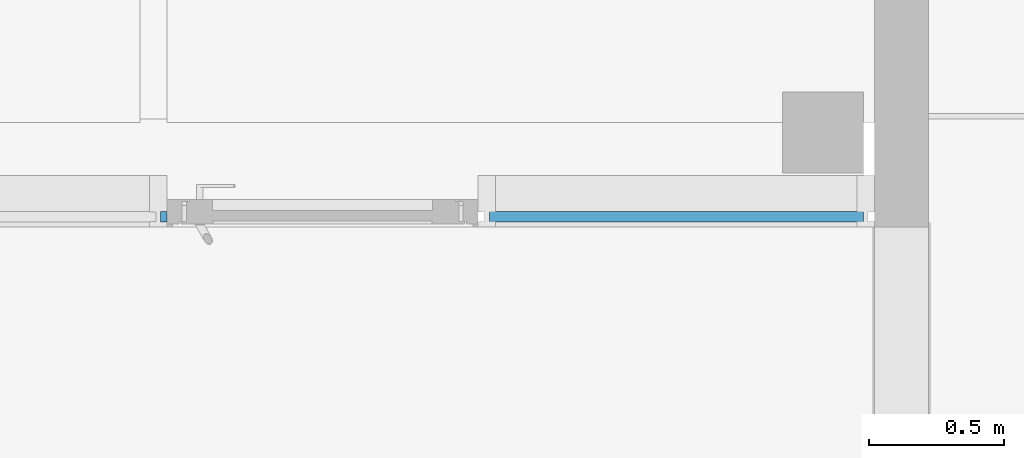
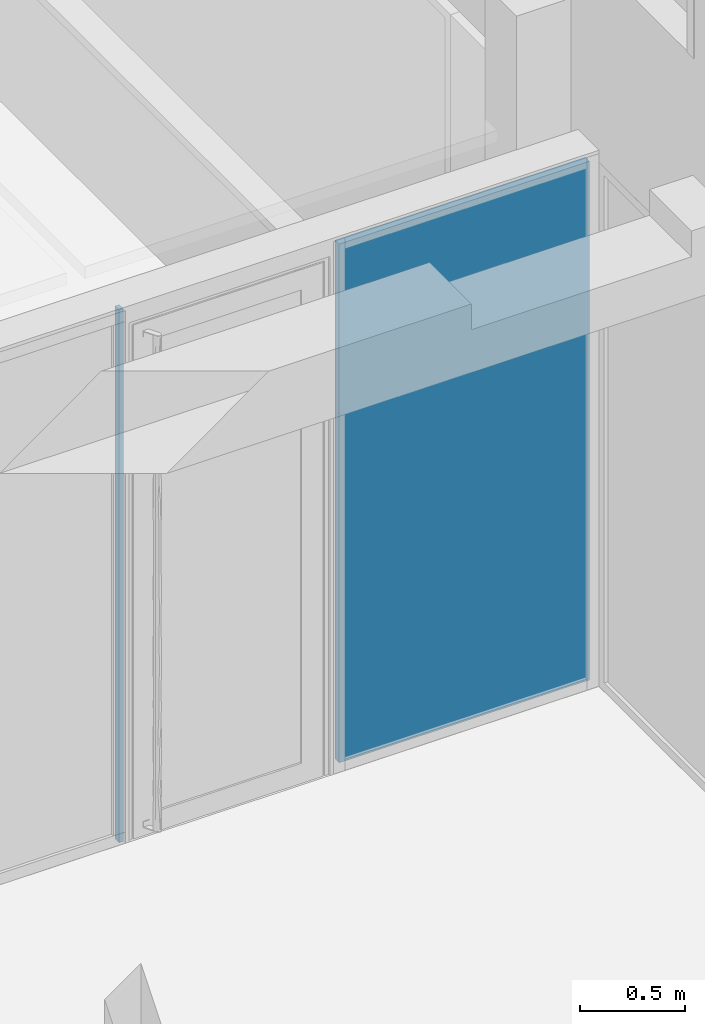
# One storey, part 66 of 240: 2 plates, 2 elements without a shape of their own.
"""IFC2X3 building model written with IfcOpenShell, lengths in centimetres."""

from ifc_helpers import new_model, entity, si_unit, converted_unit, derived_unit, direction, frame, frame_2d, origin, origin_2d_with_axis, place, context, subcontext, project, spatial, rectangle, extrude, source, transform, mapped, material, layer, layer_set, layer_usage, type_object, type_shapes, element, aggregate, save


model = new_model("IFC2X3")

# Units and contexts
model_context = context("Model", 3, precision=0.001, world=origin(), true_north=direction((6.12303176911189e-17, 1.0)))
body_context = subcontext(model_context, "Body", "Model", "MODEL_VIEW")
ifc_project = project(units=[si_unit("LENGTHUNIT", "METRE", prefix="CENTI"), si_unit("AREAUNIT", "SQUARE_METRE"), si_unit("VOLUMEUNIT", "CUBIC_METRE"), converted_unit("PLANEANGLEUNIT", "DEGREE", entity("IfcRatioMeasure", 0.0174532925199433), si_unit("PLANEANGLEUNIT", "RADIAN"), dimensions=[0, 0, 0, 0, 0, 0, 0]), si_unit("MASSUNIT", "GRAM", prefix="KILO"), derived_unit("MASSDENSITYUNIT", [(si_unit("MASSUNIT", "GRAM", prefix="KILO"), 1), (si_unit("LENGTHUNIT", "METRE"), -3)]), si_unit("TIMEUNIT", "SECOND"), si_unit("FREQUENCYUNIT", "HERTZ"), si_unit("THERMODYNAMICTEMPERATUREUNIT", "DEGREE_CELSIUS"), derived_unit("THERMALTRANSMITTANCEUNIT", [(si_unit("MASSUNIT", "GRAM", prefix="KILO"), 1), (si_unit("THERMODYNAMICTEMPERATUREUNIT", "KELVIN"), -1), (si_unit("TIMEUNIT", "SECOND"), -3)]), derived_unit("VOLUMETRICFLOWRATEUNIT", [(si_unit("LENGTHUNIT", "METRE"), 3), (si_unit("TIMEUNIT", "SECOND"), -1)]), si_unit("ELECTRICCURRENTUNIT", "AMPERE"), si_unit("ELECTRICVOLTAGEUNIT", "VOLT"), si_unit("POWERUNIT", "WATT"), si_unit("FORCEUNIT", "NEWTON", prefix="KILO"), si_unit("ILLUMINANCEUNIT", "LUX"), si_unit("LUMINOUSFLUXUNIT", "LUMEN"), si_unit("LUMINOUSINTENSITYUNIT", "CANDELA"), derived_unit("USERDEFINED", [(si_unit("MASSUNIT", "GRAM", prefix="KILO"), -1), (si_unit("LENGTHUNIT", "METRE"), -2), (si_unit("TIMEUNIT", "SECOND"), 3), (si_unit("LUMINOUSFLUXUNIT", "LUMEN"), 1)]), derived_unit("LINEARVELOCITYUNIT", [(si_unit("LENGTHUNIT", "METRE"), 1), (si_unit("TIMEUNIT", "SECOND"), -1)]), si_unit("PRESSUREUNIT", "PASCAL"), derived_unit("USERDEFINED", [(si_unit("LENGTHUNIT", "METRE"), -2), (si_unit("MASSUNIT", "GRAM", prefix="KILO"), 1), (si_unit("TIMEUNIT", "SECOND"), -2)])], contexts=[model_context])

# Site, building, storey
site_placement = place(None, frame((-2781.94577612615, 7442.24238424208, 0.0)))
site = spatial("IfcSite", under=ifc_project, at=site_placement, Name="Default", CompositionType="ELEMENT")
building_placement = place(site_placement, origin())
building = spatial("IfcBuilding", under=site, at=building_placement, CompositionType="ELEMENT")
storey_placement = place(building_placement, origin())
storey = spatial("IfcBuildingStorey", under=building, at=storey_placement, Name="N00 - COO", CompositionType="ELEMENT", Elevation=0.0)

# Curtain wall, plate
curtain_wall_type = type_object("IfcCurtainWallType", Name="Mur-rideau:07 - mur rideau trame 280 cm", PredefinedType="NOTDEFINED")
curtain_wall_1_placement = place(building_placement, origin())
curtain_wall_1 = element("IfcCurtainWall", 1, at=curtain_wall_1_placement, inside=storey, type_object=curtain_wall_type, Name="Mur-rideau:07 - mur rideau trame 280 cm", ObjectType="Mur-rideau:07 - mur rideau trame 280 cm")
ifc_material = material(Name="Verre")
ifc_layer = layer(ifc_material, 4.0)
ifc_layer_set = layer_set([ifc_layer], Name="Panneau système:Vitré")
ifc_layer_usage_1 = layer_usage(ifc_layer_set, "AXIS3", "POSITIVE", 0.0)
plate_type_1 = type_object("IfcPlateType", Name="Vitré", PredefinedType="CURTAIN_PANEL", material=ifc_layer_set)
shared_shape_1 = source(origin(), body_context, "Body", "SweptSolid", [
    extrude(rectangle(XDim=4.0, YDim=138.282499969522, at=origin_2d_with_axis()), frame((0.0, 0.0, 0.0), z_axis=(0.0, 0.0, 1.0), x_axis=(0.0, 1.0, 0.0)), (0.0, 0.0, 1.0), 302.7625),
])
type_shapes(plate_type_1, [shared_shape_1])
plate_1_placement = place(curtain_wall_1_placement, frame((-4861.25987758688, -1946.27903364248, 4.11874999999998), z_axis=(0.0, 0.0, 1.0), x_axis=(-1.0, 0.0, 0.0)))
plate_1 = element("IfcPlate", 2, at=plate_1_placement, type_object=plate_type_1, material=ifc_layer_usage_1, Name="Panneau système:Vitré", ObjectType="Panneau système:Vitré", context=body_context, shape_type="MappedRepresentation", body=[
    mapped(shared_shape_1, transform((0.0, 0.0, 0.0), scale=1.0)),
])
aggregate(curtain_wall_1, [plate_1])

curtain_wall_2_placement = place(building_placement, origin())
curtain_wall_2 = element("IfcCurtainWall", 3, at=curtain_wall_2_placement, inside=storey, type_object=curtain_wall_type, Name="Mur-rideau:07 - mur rideau trame 280 cm", ObjectType="Mur-rideau:07 - mur rideau trame 280 cm")
ifc_layer_usage_2 = layer_usage(ifc_layer_set, "AXIS3", "POSITIVE", 0.0)
plate_type_2 = type_object("IfcPlateType", Name="Vitré", PredefinedType="CURTAIN_PANEL", material=ifc_layer_set)
shared_shape_2 = source(origin(), body_context, "Body", "SweptSolid", [
    extrude(rectangle(XDim=4.0, YDim=2.38125000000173, at=frame_2d((0.0, 1.11022302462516e-16), x_axis=(1.0, 0.0))), frame((0.0, 0.0, 0.0), z_axis=(0.0, 0.0, 1.0), x_axis=(0.0, 1.0, 0.0)), (0.0, 0.0, 1.0), 311.0),
])
type_shapes(plate_type_2, [shared_shape_2])
plate_2_placement = place(curtain_wall_2_placement, frame((-5050.69050260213, -1946.27903364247, 0.0)))
plate_2 = element("IfcPlate", 4, at=plate_2_placement, type_object=plate_type_2, material=ifc_layer_usage_2, Name="Panneau système:Vitré", ObjectType="Panneau système:Vitré", context=body_context, shape_type="MappedRepresentation", body=[
    mapped(shared_shape_2, transform((0.0, 0.0, 0.0), scale=1.0)),
])
aggregate(curtain_wall_2, [plate_2])

save(model, "model.ifc")
